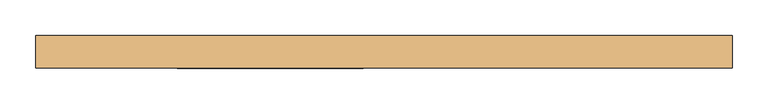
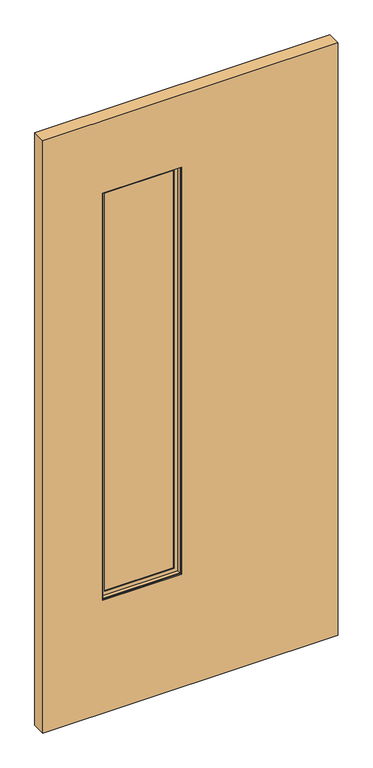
"""IFC4 building model written with IfcOpenShell, lengths in millimetres: door geometry, Solid_Hinged_Door_Glass_insert-AIH-Teknion-FHDB-Leaf_Single-R2022 : (A) Justified Half Glass insert."""

from ifc_helpers import new_model, si_unit, frame, origin, place, context, project, spatial, polyline, outline, extrude, faceted_brep, source, transform, mapped, element, save


def door_396f2113(model_context):
    return source(origin(), model_context, "Body", "SolidModel", [
        extrude(outline(polyline([(-29.4464326, 3.175), (-29.4464326, -3.175), (-291.0664326, -3.175), (-291.0664326, 3.175), (-29.4464326, 3.175)])), frame((0.0, 0.0, 409.9435027), z_axis=(0.0, 0.0, 1.0), x_axis=(1.0, 0.0, 0.0)), (0.0, 0.0, 1.0), 1430.02),
        faceted_brep([(-275.1758536, -3.797467, 1824.0729238), (-275.1758536, -6.9755828, 1824.0729238), (-275.1758536, -6.9755828, 425.8340817), (-275.1758536, -3.797467, 425.8340817), (-45.3370115, -6.9755828, 425.8340817), (-45.3370115, -3.797467, 425.8340817), (-32.6245484, -6.9755828, 413.1216185), (-32.6245484, -6.9755828, 1836.7853869), (-287.8883168, -6.9755828, 1836.7853869), (-287.8883168, -6.9755828, 413.1216185), (-45.3370115, -6.9755828, 1824.0729238), (-45.3370115, -3.797467, 1824.0729238), (-291.0664326, -3.797467, 409.9435027), (-291.0664326, -3.797467, 1839.9635027), (-29.4464326, -3.797467, 1839.9635027), (-29.4464326, -3.797467, 409.9435027), (-291.0664326, -19.688046, 1839.9635027), (-291.0664326, -19.688046, 409.9435027), (-29.4464326, -19.688046, 409.9435027), (-29.4464326, -19.688046, 1839.9635027), (-287.8883168, -19.688046, 413.1216185), (-287.8883168, -19.688046, 1836.7853869), (-32.6245484, -19.688046, 1836.7853869), (-32.6245484, -19.688046, 413.1216185)], [[[0, 1, 2, 3]], [[3, 2, 4, 5]], [[6, 7, 8, 9], [2, 1, 10, 4]], [[5, 4, 10, 11]], [[12, 13, 14, 15], [5, 11, 0, 3]], [[16, 13, 12, 17]], [[17, 12, 15, 18]], [[18, 15, 14, 19]], [[18, 19, 16, 17], [20, 21, 22, 23]], [[8, 21, 20, 9]], [[9, 20, 23, 6]], [[6, 23, 22, 7]], [[11, 10, 1, 0]], [[19, 14, 13, 16]], [[7, 22, 21, 8]]]),
        faceted_brep([(-287.8883168, 19.688046, 1836.7853869), (-287.8883168, 6.9755828, 1836.7853869), (-287.8883168, 6.9755828, 413.1216185), (-287.8883168, 19.688046, 413.1216185), (-32.6245484, 6.9755828, 413.1216185), (-32.6245484, 19.688046, 413.1216185), (-32.6245484, 6.9755828, 1836.7853869), (-45.3370115, 6.9755828, 425.8340817), (-45.3370115, 6.9755828, 1824.0729238), (-275.1758536, 6.9755828, 1824.0729238), (-275.1758536, 6.9755828, 425.8340817), (-32.6245484, 19.688046, 1836.7853869), (-291.0664326, 19.688046, 409.9435027), (-291.0664326, 19.688046, 1839.9635027), (-29.4464326, 19.688046, 1839.9635027), (-29.4464326, 19.688046, 409.9435027), (-291.0664326, 3.797467, 1839.9635027), (-291.0664326, 3.797467, 409.9435027), (-29.4464326, 3.797467, 409.9435027), (-29.4464326, 3.797467, 1839.9635027), (-275.1758536, 3.797467, 425.8340817), (-275.1758536, 3.797467, 1824.0729238), (-45.3370115, 3.797467, 1824.0729238), (-45.3370115, 3.797467, 425.8340817)], [[[0, 1, 2, 3]], [[3, 2, 4, 5]], [[2, 1, 6, 4], [7, 8, 9, 10]], [[5, 4, 6, 11]], [[12, 13, 14, 15], [5, 11, 0, 3]], [[16, 13, 12, 17]], [[17, 12, 15, 18]], [[18, 15, 14, 19]], [[18, 19, 16, 17], [20, 21, 22, 23]], [[9, 21, 20, 10]], [[10, 20, 23, 7]], [[7, 23, 22, 8]], [[11, 6, 1, 0]], [[19, 14, 13, 16]], [[8, 22, 21, 9]]]),
        extrude(outline(polyline([(2093.9635027, 490.4564326), (2093.9635027, -490.4564326), (12.7, -490.4564326), (12.7, 490.4564326), (2093.9635027, 490.4564326)]), holes=[polyline([(1839.9635027, -291.0664326), (1839.9635027, -29.4464326), (409.9435027, -29.4464326), (409.9435027, -291.0664326), (1839.9635027, -291.0664326)])]), frame((0.0, -23.114, 0.0), z_axis=(0.0, 1.0, 0.0), x_axis=(0.0, 0.0, 1.0)), (0.0, 0.0, 1.0), 46.228),
    ])


if __name__ == "__main__":
    model = new_model("IFC4")
    model_context = context("Model", 3, world=origin())
    ifc_project = project(units=[si_unit("LENGTHUNIT", "METRE", prefix="MILLI")], contexts=[model_context])
    site = spatial("IfcSite", under=ifc_project)
    building = spatial("IfcBuilding", under=site)
    placement = place(None, origin())
    door_shape = door_396f2113(model_context)
    element("IfcDoor", 1, ObjectType="Solid_Hinged_Door_Glass_insert-AIH-Teknion-FHDB-Leaf_Single-R2022 : (A) Justified Half Glass insert", at=placement, inside=building, context=model_context, shape_type="MappedRepresentation", body=[
        mapped(door_shape, transform((0.0, 0.0, 0.0), x_axis=(1.0, 0.0, 0.0), y_axis=(0.0, 1.0, 0.0), z_axis=(0.0, 0.0, 1.0))),
    ])
    save(model, "model.ifc")
